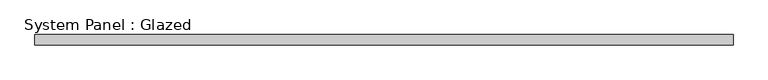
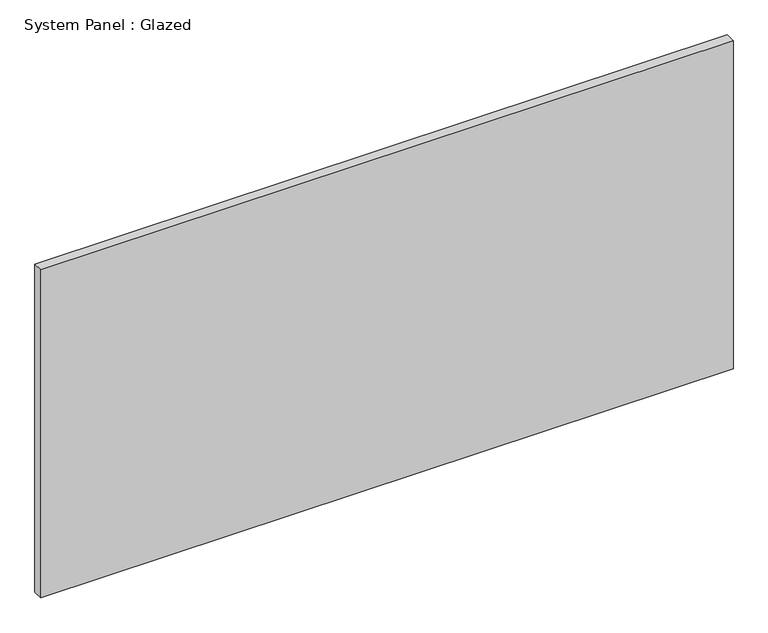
"""IFC4 building model written with IfcOpenShell, lengths in millimetres: plate geometry, System Panel : Glazed."""

from ifc_helpers import new_model, si_unit, origin, origin_with_axes, place, context, project, spatial, polyline, outline, extrude, source, transform, mapped, element, save


def system_panel_glazed_a648d7df(model_context):
    return source(origin(), model_context, "Body", "SweptSolid", [
        extrude(outline(polyline([(868.2793088, 19.05), (-868.2793088, 19.05), (-868.2793088, 44.45), (868.2793088, 44.45), (868.2793088, 19.05)])), origin_with_axes(), (0.0, 0.0, 1.0), 869.5973025),
    ])


if __name__ == "__main__":
    model = new_model("IFC4")
    model_context = context("Model", 3, world=origin())
    ifc_project = project(units=[si_unit("LENGTHUNIT", "METRE", prefix="MILLI")], contexts=[model_context])
    site = spatial("IfcSite", under=ifc_project)
    building = spatial("IfcBuilding", under=site)
    placement = place(None, origin())
    system_panel_glazed_shape = system_panel_glazed_a648d7df(model_context)
    element("IfcPlate", 1, ObjectType="System Panel : Glazed", at=placement, inside=building, context=model_context, shape_type="MappedRepresentation", body=[
        mapped(system_panel_glazed_shape, transform((0.0, 0.0, 0.0), x_axis=(1.0, 0.0, 0.0), y_axis=(0.0, 1.0, 0.0), z_axis=(0.0, 0.0, 1.0))),
    ])
    save(model, "model.ifc")
